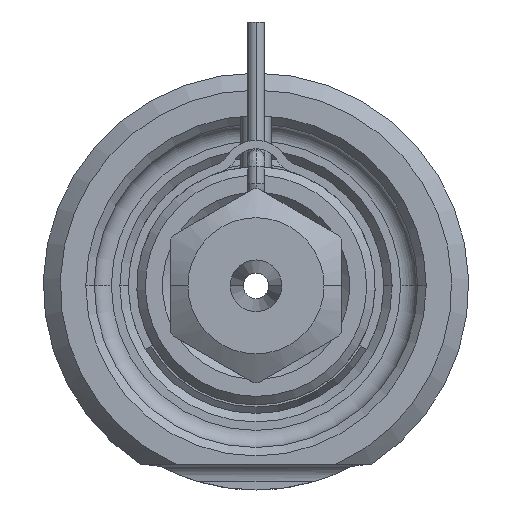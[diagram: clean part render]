
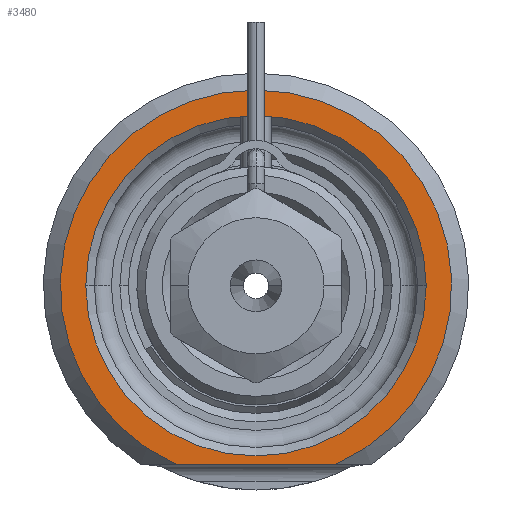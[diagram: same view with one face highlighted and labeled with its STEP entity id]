
A CAD part, front view. The second image highlights one B-rep face of the part: STEP entity #3480.
In plain terms, the highlighted planar face has unit normal (0, -1, 0).
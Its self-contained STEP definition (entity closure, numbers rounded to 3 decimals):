
#598=DIRECTION('',(1.,0.,0.));
#599=VECTOR('',#598,9.381);
#600=CARTESIAN_POINT('',(-4.69,0.,-10.5));
#601=LINE('',#600,#599);
#602=CARTESIAN_POINT('',(0.,0.,0.));
#603=DIRECTION('',(0.,1.,0.));
#604=DIRECTION('',(-1.,0.,0.));
#605=AXIS2_PLACEMENT_3D('',#602,#603,#604);
#607=CARTESIAN_POINT('',(0.,0.,0.));
#608=DIRECTION('',(0.,1.,0.));
#609=DIRECTION('',(1.,0.,0.));
#610=AXIS2_PLACEMENT_3D('',#607,#608,#609);
#681=CARTESIAN_POINT('',(0.,0.,0.));
#682=DIRECTION('',(0.,-1.,0.));
#683=DIRECTION('',(0.408,0.,-0.913));
#684=AXIS2_PLACEMENT_3D('',#681,#682,#683);
#2332=CARTESIAN_POINT('',(-10.,0.,0.));
#2333=CARTESIAN_POINT('',(10.,0.,0.));
#2334=VERTEX_POINT('',#2332);
#2335=VERTEX_POINT('',#2333);
#2390=CARTESIAN_POINT('',(-4.69,0.,-10.5));
#2391=CARTESIAN_POINT('',(4.69,0.,-10.5));
#2392=VERTEX_POINT('',#2390);
#2393=VERTEX_POINT('',#2391);
#3464=CARTESIAN_POINT('',(0.,0.,0.));
#3465=DIRECTION('',(0.,-1.,0.));
#3466=DIRECTION('',(1.,0.,0.));
#3467=AXIS2_PLACEMENT_3D('',#3464,#3465,#3466);
#3468=PLANE('',#3467);
#3470=ORIENTED_EDGE('',*,*,#3469,.F.);
#3472=ORIENTED_EDGE('',*,*,#3471,.F.);
#3473=EDGE_LOOP('',(#3470,#3472));
#3474=FACE_OUTER_BOUND('',#3473,.F.);
#3475=ORIENTED_EDGE('',*,*,#3454,.F.);
#3477=ORIENTED_EDGE('',*,*,#3476,.F.);
#3478=EDGE_LOOP('',(#3475,#3477));
#3479=FACE_BOUND('',#3478,.F.);
#3480=ADVANCED_FACE('',(#3474,#3479),#3468,.T.);
#606=CIRCLE('',#605,10.);
#611=CIRCLE('',#610,10.);
#685=CIRCLE('',#684,11.5);
#3454=EDGE_CURVE('',#2334,#2335,#606,.T.);
#3469=EDGE_CURVE('',#2392,#2393,#601,.T.);
#3471=EDGE_CURVE('',#2393,#2392,#685,.T.);
#3476=EDGE_CURVE('',#2335,#2334,#611,.T.);
